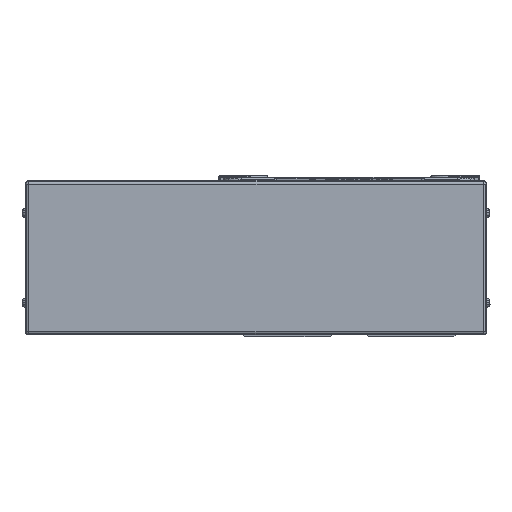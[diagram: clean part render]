
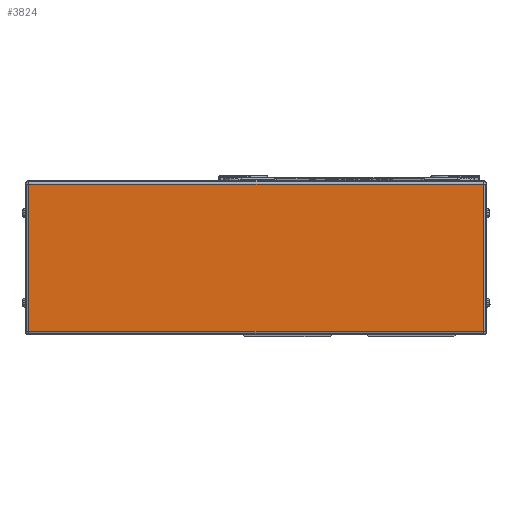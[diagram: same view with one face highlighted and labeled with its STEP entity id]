
A CAD part, left-side view. The second image highlights one B-rep face of the part: STEP entity #3824.
In plain terms, the highlighted planar face has unit normal (-1, 0, 0).
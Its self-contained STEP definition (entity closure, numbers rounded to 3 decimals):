
#3824=ADVANCED_FACE('',(#9110),#9111,.F.);
#9110=FACE_OUTER_BOUND('',#16543,.T.);
#9111=PLANE('',#16544);
#16543=EDGE_LOOP('',(#28201,#28202,#28203,#28204));
#16544=AXIS2_PLACEMENT_3D('',#28205,#28206,#28207);
#28201=ORIENTED_EDGE('',*,*,#45612,.T.);
#28202=ORIENTED_EDGE('',*,*,#45613,.T.);
#28203=ORIENTED_EDGE('',*,*,#42922,.T.);
#28204=ORIENTED_EDGE('',*,*,#45614,.T.);
#28205=CARTESIAN_POINT('',(-45.,180.5,0.));
#28206=DIRECTION('',(1.0,0.,0.));
#28207=DIRECTION('',(0.,0.,1.0));
#42922=EDGE_CURVE('',#51168,#51166,#51169,.T.);
#45612=EDGE_CURVE('',#55648,#54928,#55649,.T.);
#45613=EDGE_CURVE('',#54928,#51168,#55650,.T.);
#45614=EDGE_CURVE('',#51166,#55648,#55651,.T.);
#51166=VERTEX_POINT('',#63082);
#51168=VERTEX_POINT('',#63084);
#51169=LINE('',#63085,#63086);
#54928=VERTEX_POINT('',#68657);
#55648=VERTEX_POINT('',#69601);
#55649=LINE('',#69602,#69603);
#55650=LINE('',#69604,#69605);
#55651=LINE('',#69606,#69607);
#63082=CARTESIAN_POINT('',(-45.,-74.5,41.));
#63084=CARTESIAN_POINT('',(-45.,-74.5,-41.));
#63085=CARTESIAN_POINT('',(-45.,-74.5,0.));
#63086=VECTOR('',#78323,10.0);
#68657=CARTESIAN_POINT('',(-45.,178.5,-41.));
#69601=CARTESIAN_POINT('',(-45.,178.5,41.));
#69602=CARTESIAN_POINT('',(-45.,178.5,0.));
#69603=VECTOR('',#82211,10.0);
#69604=CARTESIAN_POINT('',(-45.,180.5,-41.));
#69605=VECTOR('',#82212,10.0);
#69606=CARTESIAN_POINT('',(-45.,180.5,41.));
#69607=VECTOR('',#82213,10.0);
#78323=DIRECTION('',(0.,0.,1.0));
#82211=DIRECTION('',(0.,0.,-1.0));
#82212=DIRECTION('',(0.,-1.0,0.));
#82213=DIRECTION('',(0.,1.0,0.));
